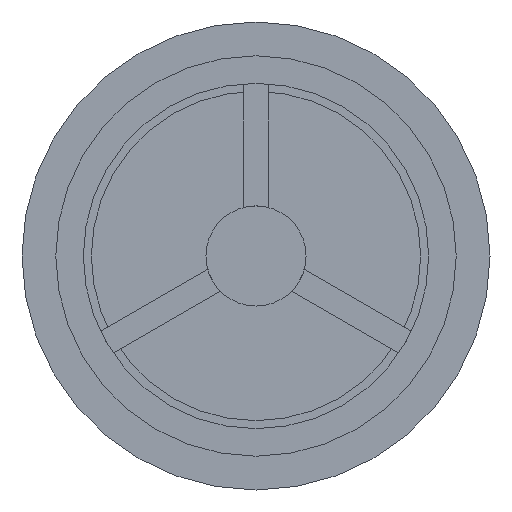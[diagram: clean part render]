
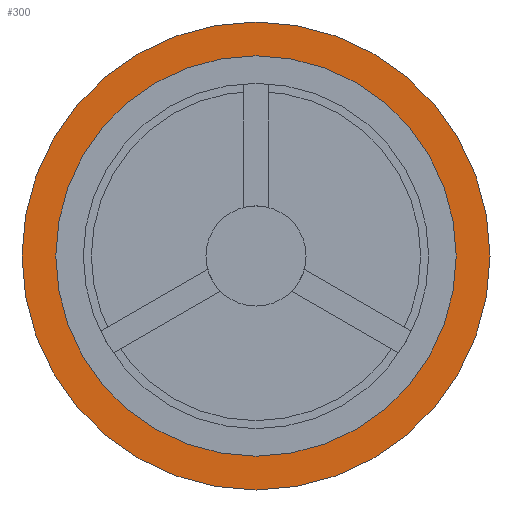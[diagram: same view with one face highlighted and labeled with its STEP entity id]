
A CAD part, front view. The second image highlights one B-rep face of the part: STEP entity #300.
In plain terms, the highlighted planar face has unit normal (0, -1, 0).
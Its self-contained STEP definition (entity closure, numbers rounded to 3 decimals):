
#300=ADVANCED_FACE('',(#8057,#8059),#8061,.T.);
#8057=FACE_BOUND('',#8058,.T.);
#8058=EDGE_LOOP('',(#17875,#17876));
#8059=FACE_BOUND('',#8060,.T.);
#8060=EDGE_LOOP('',(#17877,#17878));
#8061=PLANE('',#8062);
#8062=AXIS2_PLACEMENT_3D('',#8063,#8064,#8065);
#8063=CARTESIAN_POINT('',(2470.308,1742.275,0.));
#8064=DIRECTION('',(0.,-1.,0.));
#8065=DIRECTION('',(0.,0.,-1.));
#17875=ORIENTED_EDGE('',*,*,#22859,.T.);
#17876=ORIENTED_EDGE('',*,*,#22860,.T.);
#17877=ORIENTED_EDGE('',*,*,#22861,.F.);
#17878=ORIENTED_EDGE('',*,*,#22862,.F.);
#22859=EDGE_CURVE('',#26231,#26232,#26233,.T.);
#22860=EDGE_CURVE('',#26232,#26231,#26234,.T.);
#22861=EDGE_CURVE('',#26235,#26236,#26237,.T.);
#22862=EDGE_CURVE('',#26236,#26235,#26238,.T.);
#26231=VERTEX_POINT('',#33948);
#26232=VERTEX_POINT('',#33949);
#26233=CIRCLE('',#33950,93.5);
#26234=CIRCLE('',#33954,93.5);
#26235=VERTEX_POINT('',#33958);
#26236=VERTEX_POINT('',#33959);
#26237=CIRCLE('',#33960,80.);
#26238=CIRCLE('',#33964,80.);
#33948=CARTESIAN_POINT('',(2456.808,1742.275,0.));
#33949=CARTESIAN_POINT('',(2643.808,1742.275,0.));
#33950=AXIS2_PLACEMENT_3D('',#33951,#33952,#33953);
#33951=CARTESIAN_POINT('',(2550.308,1742.275,0.));
#33952=DIRECTION('',(0.,-1.,0.));
#33953=DIRECTION('',(-1.,0.,0.));
#33954=AXIS2_PLACEMENT_3D('',#33955,#33956,#33957);
#33955=CARTESIAN_POINT('',(2550.308,1742.275,0.));
#33956=DIRECTION('',(0.,-1.,0.));
#33957=DIRECTION('',(1.,0.,0.));
#33958=CARTESIAN_POINT('',(2550.308,1742.275,-80.));
#33959=CARTESIAN_POINT('',(2470.308,1742.275,0.));
#33960=AXIS2_PLACEMENT_3D('',#33961,#33962,#33963);
#33961=CARTESIAN_POINT('',(2550.308,1742.275,0.));
#33962=DIRECTION('',(0.,-1.,0.));
#33963=DIRECTION('',(0.,0.,-1.));
#33964=AXIS2_PLACEMENT_3D('',#33965,#33966,#33967);
#33965=CARTESIAN_POINT('',(2550.308,1742.275,0.));
#33966=DIRECTION('',(0.,-1.,0.));
#33967=DIRECTION('',(-1.,0.,0.));
